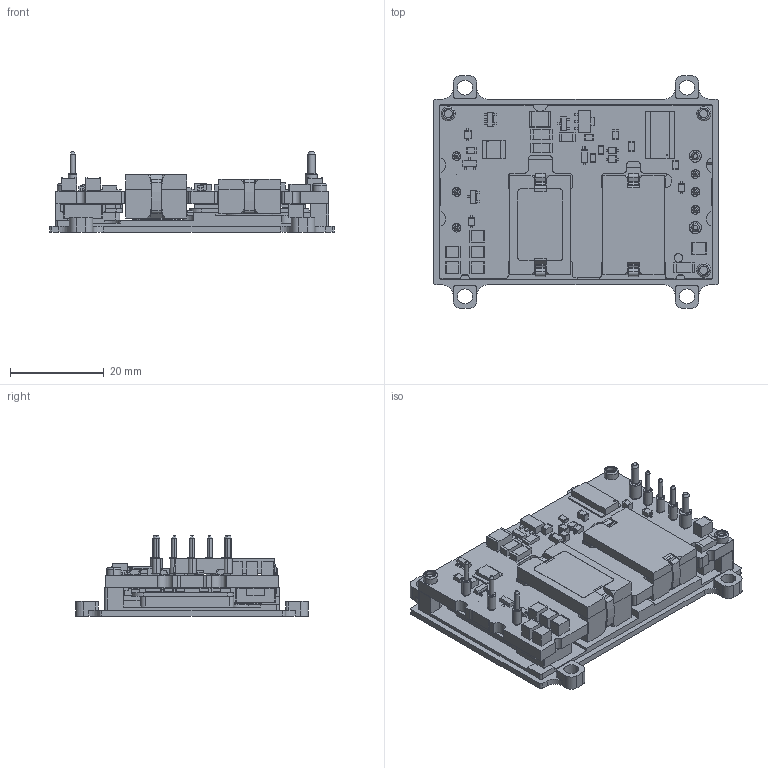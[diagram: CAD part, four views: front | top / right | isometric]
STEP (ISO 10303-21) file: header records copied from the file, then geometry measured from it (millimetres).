
FILE_DESCRIPTION((''),'2;1');
FILE_NAME('GQA_ASY_01_ASM','2017-05-30T',('Cyrus.Cheng'),(''),'CREO PARAMETRIC BY PTC INC, 2014190','CREO PARAMETRIC BY PTC INC, 2014190','');
FILE_SCHEMA(('AUTOMOTIVE_DESIGN { 1 0 10303 214 1 1 1 1 }'));
Length unit declared in the file: inch
Products named in the file (37): HQA_PWB; EIR21_9_E_CORE; EIR21_9_I_CORE; EI_E_CORE_COLOR; EI_I_CORE_COLOR; ZP00115_CLIP_ONCORE; ZP00160_01; ZP00159_01; 1812_LOWCAP_COLOR; 1808_EMI_CAP_COLOR; 1210_CAP_COLOR; 1210_RES_COLOR; 1206_CAP_COLOR; 1206_RES_COLOR; 1206_LOWCAP_COLOR; 0805_CAP; 0805_RES; ES07X; SOD123_01_COLOR; SOT23-5_01_COLOR; SOT23_01_COLOR; 5X6X1FET_BLOCK; 3R3X3R3FET_THINBLOCK; MSOP16_BLOCK; SSOP28_BLOCK; SOD323_01_COLOR; SOT89; CDMC8D28; PA3493NL; LABEL_AP100_01; GAP-FILLER-BLOCK2; GAP-FILLER-BLOCK3; GAP-FILLER-BLOCK4; ZP00295_MP_01; ZP00264_SIMPLE; TML; GQA_ASY_01_ASM
Assembly tree (88 placements, depth 2):
  GQA_ASY_01_ASM
    HQA_PWB
    EIR21_9_E_CORE
    EIR21_9_I_CORE
    EI_E_CORE_COLOR
    EI_I_CORE_COLOR
    ZP00115_CLIP_ONCORE  x4
    ZP00160_01  x2
    ZP00159_01  x6
    1812_LOWCAP_COLOR
    1808_EMI_CAP_COLOR  x3
    1210_CAP_COLOR  x11
    1210_RES_COLOR  x2
    1206_CAP_COLOR
    1206_RES_COLOR  x8
    1206_LOWCAP_COLOR  x2
    0805_CAP  x7
    0805_RES  x2
    ES07X  x2
    SOD123_01_COLOR
    SOT23-5_01_COLOR
    SOT23_01_COLOR  x3
    5X6X1FET_BLOCK  x6
    3R3X3R3FET_THINBLOCK
    MSOP16_BLOCK
    SSOP28_BLOCK
    SOD323_01_COLOR  x5
    SOT89
    CDMC8D28
    PA3493NL
    LABEL_AP100_01
    GAP-FILLER-BLOCK2  x2
    GAP-FILLER-BLOCK3
    GAP-FILLER-BLOCK4
    ZP00295_MP_01
    ZP00264_SIMPLE  x3
    TML
Bounding box: 60.6 x 49.53 x 17.16 mm (x, y, z)
Volume: 17583.9 mm3; surface area: 20247.9 mm2
Topology: 88 solids, 88 shells, 2195 faces, 5645 edges, 3647 vertices
Faces by surface type: plane 1628, cylinder 450, cone 111, torus 6
Entity records: 45253 total; most frequent: CARTESIAN_POINT 6266, DIRECTION 6060, ORIENTED_EDGE 5886, EDGE_CURVE 2943, PRESENTATION_STYLE_ASSIGNMENT 2638, STYLED_ITEM 2638, CURVE_STYLE 2609, VECTOR 2280
